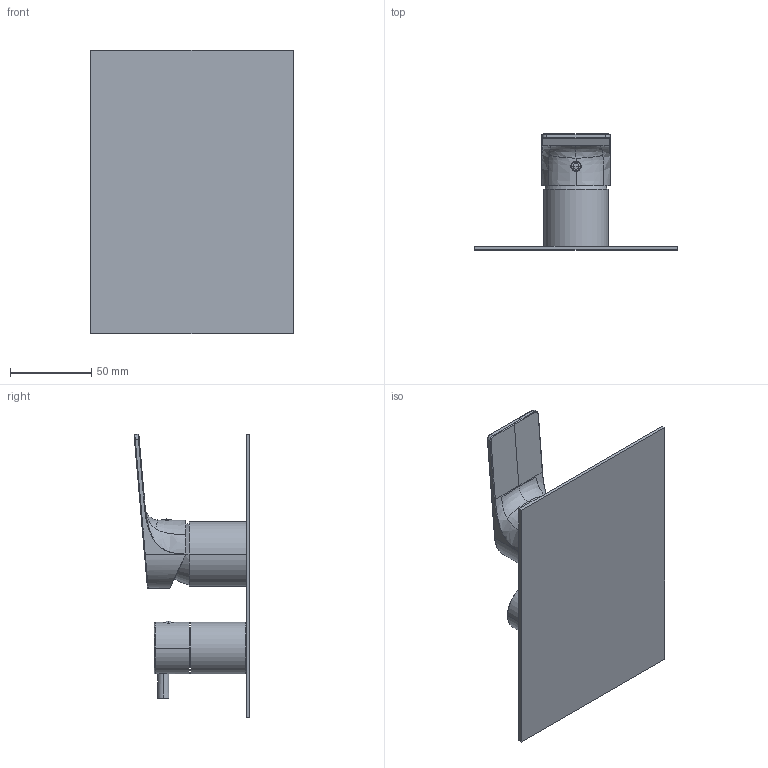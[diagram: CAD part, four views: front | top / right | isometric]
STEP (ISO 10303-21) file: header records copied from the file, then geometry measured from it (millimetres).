
FILE_DESCRIPTION((''),'2;1');
FILE_NAME('78541_SW0001','2020-05-27T16:36:06',('volponeff'),(''),'CREO PARAMETRIC BY PTC INC, 2018100','CREO PARAMETRIC BY PTC INC, 2018100','');
FILE_SCHEMA(('CONFIG_CONTROL_DESIGN'));
Length unit declared in the file: millimetre
Products named in the file (1): 78541_SW0001
Bounding box: 125 x 71.47 x 175 mm (x, y, z)
Volume: 143303.2 mm3; surface area: 76516.3 mm2
Topology: 2 solids, 4 shells, 219 faces, 538 edges, 331 vertices
Faces by surface type: plane 87, cylinder 65, bspline 28, cone 18, torus 15, sphere 4, extrusion 2
Entity records: 9769 total; most frequent: CARTESIAN_POINT 4736, ORIENTED_EDGE 1064, DIRECTION 993, EDGE_CURVE 532, AXIS2_PLACEMENT_3D 358, VERTEX_POINT 331, VECTOR 277, LINE 275
